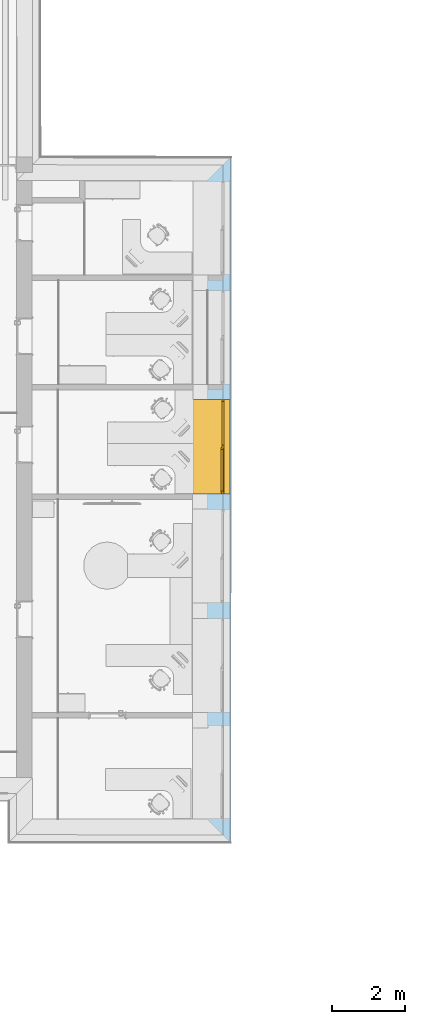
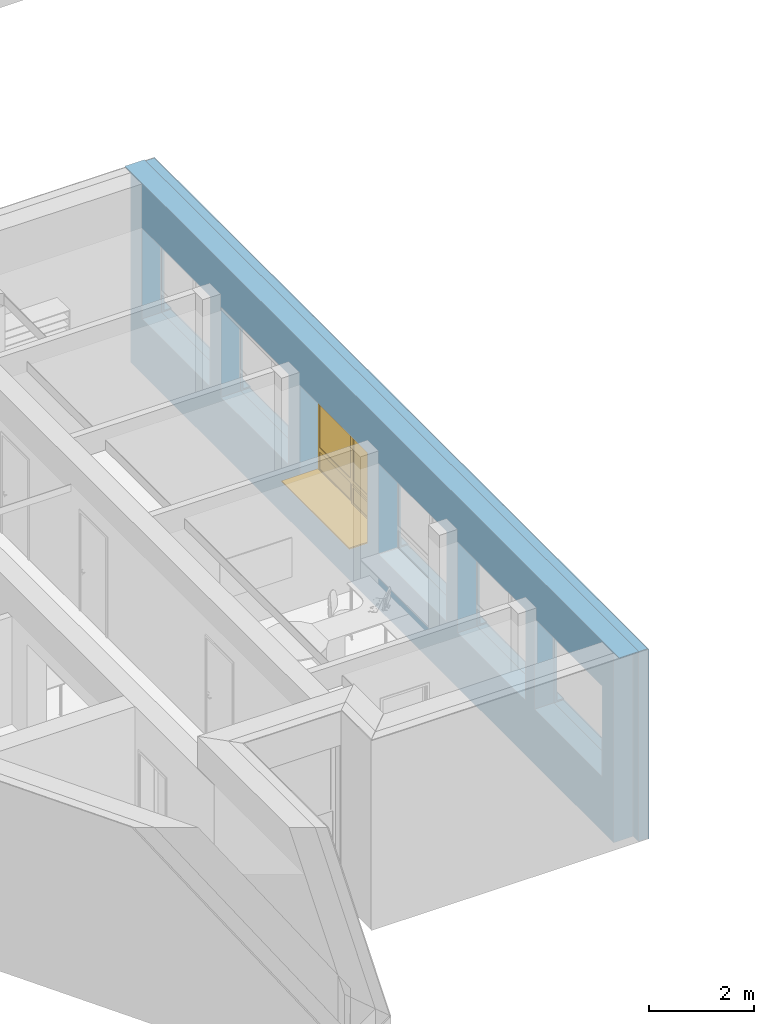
# One storey, part 79 of 194: 1 window, 6 openings, 1 element without a shape of its own, plus 3 elements that do not belong to this part.
"""IFC2X3 building model written with IfcOpenShell, lengths in millimetres."""

from ifc_helpers import new_model, entity, si_unit, converted_unit, derived_unit, money_unit, direction, frame, origin_with_axes, origin_2d_with_axis, place, context, subcontext, project, spatial, polyline, rectangle, outline, extrude, boolean, open_shell, faceted_brep, surface_model, material, type_object, element, fill, aggregate, save


model = new_model("IFC2X3")

# Units and contexts
model_context = context("Model", 3, precision=1e-05, world=origin_with_axes(), true_north=direction((0.0, 1.0)))
body_context = subcontext(model_context, "Body", "Model", "MODEL_VIEW")
ifc_project = project(units=[si_unit("LENGTHUNIT", "METRE", prefix="MILLI"), si_unit("AREAUNIT", "SQUARE_METRE"), si_unit("VOLUMEUNIT", "CUBIC_METRE"), converted_unit("PLANEANGLEUNIT", "DEGREE", entity("IfcPlaneAngleMeasure", 0.0174532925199), si_unit("PLANEANGLEUNIT", "RADIAN"), dimensions=[0, 0, 0, 0, 0, 0, 0]), si_unit("SOLIDANGLEUNIT", "STERADIAN"), money_unit("EUR"), converted_unit("TIMEUNIT", "Year", entity("IfcTimeMeasure", 31556926.0), si_unit("TIMEUNIT", "SECOND"), dimensions=[0, 0, 1, 0, 0, 0, 0]), si_unit("MASSUNIT", "GRAM", prefix="KILO"), si_unit("THERMODYNAMICTEMPERATUREUNIT", "DEGREE_CELSIUS"), si_unit("LUMINOUSINTENSITYUNIT", "LUMEN"), si_unit("ENERGYUNIT", "JOULE", prefix="MEGA"), derived_unit("THERMALCONDUCTANCEUNIT", [(si_unit("POWERUNIT", "WATT"), 1), (si_unit("LENGTHUNIT", "METRE"), -1), (si_unit("THERMODYNAMICTEMPERATUREUNIT", "KELVIN"), -1)]), derived_unit("SPECIFICHEATCAPACITYUNIT", [(si_unit("ENERGYUNIT", "JOULE"), 1), (si_unit("MASSUNIT", "GRAM", prefix="KILO"), -1), (si_unit("THERMODYNAMICTEMPERATUREUNIT", "KELVIN"), -1)]), derived_unit("MASSDENSITYUNIT", [(si_unit("MASSUNIT", "GRAM", prefix="KILO"), 1), (si_unit("VOLUMEUNIT", "CUBIC_METRE"), -1)])], contexts=[model_context])

# Site, building, storey
site_placement = place(None, origin_with_axes())
site = spatial("IfcSite", under=ifc_project, at=site_placement, Name="Site", CompositionType="ELEMENT")
building_placement = place(site_placement, origin_with_axes())
building = spatial("IfcBuilding", under=site, at=building_placement, Name="Building", CompositionType="ELEMENT")
storey_placement = place(building_placement, frame((0.0, 0.0, 3000.0), z_axis=(0.0, 0.0, 1.0), x_axis=(1.0, 0.0, 0.0)))
storey = spatial("IfcBuildingStorey", under=building, at=storey_placement, Name="2 KORRUS", CompositionType="ELEMENT", Elevation=3000.0)

# Window
window_style = type_object("IfcWindowStyle", Name="A2   2\xa0580×2\xa0100", ConstructionType="NOTDEFINED", OperationType="USERDEFINED", ParameterTakesPrecedence=False, Sizeable=False)
wall_placement = place(storey_placement, frame((45388.6906963, 4389.96789684, -420.0), z_axis=(0.0, 0.0, 1.0), x_axis=(0.000555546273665, 0.999999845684, 0.0)))
opening_3_placement = place(wall_placement, frame((10639.9002006, -1.13686837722e-10, 1270.0), z_axis=(0.0, 0.0, 1.0), x_axis=(1.0, 0.0, 0.0)))
window_placement = place(opening_3_placement, frame((-1290.0, 2.27373675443e-10, 0.0), z_axis=(0.0, 0.0, 1.0), x_axis=(1.0, 0.0, 0.0)))
window = element("IfcWindow", 1, at=window_placement, inside=storey, type_object=window_style, Name="välisaken * Double Window 22", OverallHeight=2100.0, OverallWidth=2580.0, context=body_context, shape_type="SurfaceModel", body=[
    faceted_brep([(9.09494701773e-10, -20.0000000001, 30.0), (9.09494701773e-10, -20.0000000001, 5.0), (9.09494701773e-10, -220.0, 5.0), (9.09494701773e-10, -220.0, 19.5184441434), (2580.0, -20.0, 30.0), (2580.0, -20.0, 5.0), (2580.0, -220.0, 5.0), (2580.0, -220.0, 19.5184441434)], [[[0, 1, 2, 3]], [[4, 5, 1, 0]], [[2, 1, 5, 6]], [[3, 2, 6, 7]], [[4, 0, 3, 7]], [[7, 6, 5, 4]]]),
    faceted_brep([(9.09494701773e-10, -20.0000000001, 0.0), (9.09494701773e-10, -220.0, 0.0), (9.09494701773e-10, -220.0, 5.0), (9.09494701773e-10, -20.0000000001, 5.0), (2580.0, -20.0, 0.0), (2580.0, -220.0, 0.0), (2580.0, -220.0, 5.0), (2580.0, -20.0, 5.0)], [[[0, 1, 2, 3]], [[0, 4, 5, 1]], [[1, 5, 6, 2]], [[3, 2, 6, 7]], [[4, 0, 3, 7]], [[5, 4, 7, 6]]]),
    faceted_brep([(2580.0, 30.0, 0.0), (2580.0, 430.0, 0.0), (2580.0, 430.0, 30.0), (2580.0, 30.0, 30.0), (0.0, 30.0, 0.0), (9.09494701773e-10, 430.0, 0.0), (9.09494701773e-10, 830.0, 0.0), (2580.0, 830.0, 0.0), (2580.0, 830.0, 30.0), (9.09494701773e-10, 830.0, 30.0), (9.09494701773e-10, 430.0, 30.0), (0.0, 30.0, 30.0)], [[[0, 1, 2, 3]], [[0, 4, 5, 6, 7, 1]], [[1, 7, 8, 2]], [[3, 2, 8, 9, 10, 11]], [[4, 0, 3, 11]], [[5, 4, 11, 10]], [[6, 5, 10, 9]], [[7, 6, 9, 8]]]),
    faceted_brep([(25.0000000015, 30.0, 50.0), (0.0, 30.0, 50.0), (0.0, 30.0, 2050.0), (50.0000000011, 30.0, 2050.0), (50.0000000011, 30.0, 550.0), (50.0000000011, 30.0, 475.0), (25.0000000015, 30.0, 475.0), (25.0000000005, 4.99999999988, 50.0), (50.0000000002, 5.0, 50.0), (50.0000000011, -20.0, 50.0), (9.09494701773e-10, -20.0000000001, 50.0), (9.09494701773e-10, -20.0000000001, 2050.0), (50.0000000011, -20.0, 2050.0), (50.0000000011, -20.0, 550.0), (50.0000000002, 5.0, 475.0), (50.0000000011, -20.0, 450.0), (50.0000000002, 5.0, 450.0), (25.0000000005, 4.99999999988, 475.0)], [[[0, 1, 2, 3, 4, 5, 6]], [[7, 8, 9, 10, 1, 0]], [[2, 1, 10, 11]], [[3, 2, 11, 12]], [[4, 3, 12, 13]], [[14, 5, 4, 13, 15, 16]], [[14, 17, 6, 5]], [[6, 17, 7, 0]], [[16, 8, 7, 17, 14]], [[16, 15, 9, 8]], [[13, 12, 11, 10, 9, 15]]]),
    faceted_brep([(1265.0, 30.0, 475.0), (1240.0, 30.0, 475.0), (1240.0, 30.0, 550.0), (1240.0, 30.0, 2050.0), (1340.0, 30.0, 2050.0), (1340.0, 30.0, 550.0), (1340.0, 30.0, 450.0), (1340.0, 30.0, 50.0), (1265.0, 30.0, 50.0), (1265.0, 5.0, 475.0), (1240.0, 5.0, 475.0), (1240.0, 5.0, 450.0), (1240.0, -20.0000000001, 450.0), (1240.0, -20.0000000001, 550.0), (1240.0, -20.0000000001, 2050.0), (1340.0, -20.0000000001, 2050.0), (1340.0, -20.0000000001, 550.0), (1340.0, -20.0000000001, 450.0), (1340.0, -20.0000000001, 50.0), (1265.0, 5.0, 50.0), (1240.0, -20.0000000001, 50.0), (1240.0, 5.0, 50.0)], [[[0, 1, 2, 3, 4, 5, 6, 7, 8]], [[0, 9, 10, 1]], [[10, 11, 12, 13, 2, 1]], [[3, 2, 13, 14]], [[4, 3, 14, 15]], [[5, 4, 15, 16]], [[6, 5, 16, 17]], [[7, 6, 17, 18]], [[19, 8, 7, 18, 20, 21]], [[8, 19, 9, 0]], [[21, 11, 10, 9, 19]], [[21, 20, 12, 11]], [[12, 20, 18, 17, 16, 15, 14, 13]]]),
    faceted_brep([(50.0000000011, 30.0, 475.0), (50.0000000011, 30.0, 550.0), (1240.0, 30.0, 550.0), (1240.0, 30.0, 475.0), (50.0000000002, 5.0, 475.0), (50.0000000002, 5.0, 450.0), (50.0000000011, -20.0, 450.0), (50.0000000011, -20.0, 550.0), (1240.0, -20.0000000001, 550.0), (1240.0, 5.0, 475.0), (1240.0, -20.0000000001, 450.0), (1240.0, 5.0, 450.0)], [[[0, 1, 2, 3]], [[4, 5, 6, 7, 1, 0]], [[2, 1, 7, 8]], [[9, 3, 2, 8, 10, 11]], [[9, 4, 0, 3]], [[11, 5, 4, 9]], [[11, 10, 6, 5]], [[8, 7, 6, 10]]]),
    faceted_brep([(1240.0, 5.0, 50.0), (1240.0, -20.0000000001, 50.0), (1340.0, -20.0000000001, 50.0), (1340.0, 30.0, 50.0), (1265.0, 30.0, 50.0), (1265.0, 5.0, 50.0), (50.0000000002, 5.0, 50.0), (50.0000000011, -20.0, 50.0), (9.09494701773e-10, -20.0000000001, 50.0), (9.09494701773e-10, -20.0000000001, 0.0), (2580.0, -20.0, 0.0), (2580.0, -20.0, 50.0), (2530.0, -20.0, 50.0), (2530.0, 30.0, 50.0), (25.0000000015, 30.0, 25.0), (1265.0, 30.0, 25.0), (2580.0, 30.0, 50.0), (2580.0, 30.0, 0.0), (0.0, 30.0, 0.0), (0.0, 30.0, 50.0), (25.0000000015, 30.0, 50.0), (1265.0, 5.0, 25.0), (25.0000000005, 4.99999999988, 25.0), (25.0000000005, 4.99999999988, 50.0)], [[[0, 1, 2, 3, 4, 5]], [[6, 7, 1, 0]], [[8, 9, 10, 11, 12, 2, 1, 7]], [[13, 3, 2, 12]], [[14, 15, 4, 3, 13, 16, 17, 18, 19, 20]], [[15, 21, 5, 4]], [[5, 21, 22, 23, 6, 0]], [[23, 20, 19, 8, 7, 6]], [[19, 18, 9, 8]], [[18, 17, 10, 9]], [[17, 16, 11, 10]], [[16, 13, 12, 11]], [[14, 22, 21, 15]], [[23, 22, 14, 20]]]),
    faceted_brep([(2530.0, -20.0, 50.0), (2530.0, 30.0, 50.0), (2580.0, 30.0, 50.0), (2580.0, -20.0, 50.0), (2530.0, -20.0, 450.0), (2530.0, 30.0, 450.0), (2530.0, 30.0, 550.0), (2530.0, 30.0, 2050.0), (2580.0, 30.0, 2050.0), (2580.0, -20.0, 2050.0), (2530.0, -20.0, 2050.0), (2530.0, -20.0, 550.0)], [[[0, 1, 2, 3]], [[4, 5, 1, 0]], [[1, 5, 6, 7, 8, 2]], [[3, 2, 8, 9]], [[0, 3, 9, 10, 11, 4]], [[11, 6, 5, 4]], [[10, 7, 6, 11]], [[9, 8, 7, 10]]]),
    faceted_brep([(1340.0, -20.0000000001, 550.0), (1340.0, 30.0, 550.0), (1340.0, 30.0, 450.0), (1340.0, -20.0000000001, 450.0), (2530.0, -20.0, 550.0), (2530.0, 30.0, 550.0), (2530.0, 30.0, 450.0), (2530.0, -20.0, 450.0)], [[[0, 1, 2, 3]], [[4, 5, 1, 0]], [[1, 5, 6, 2]], [[3, 2, 6, 7]], [[0, 3, 7, 4]], [[7, 6, 5, 4]]]),
    faceted_brep([(1240.0, -20.0000000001, 2050.0), (1240.0, 30.0, 2050.0), (1340.0, 30.0, 2050.0), (1340.0, -20.0000000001, 2050.0), (50.0000000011, -20.0, 2050.0), (50.0000000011, 30.0, 2050.0), (0.0, 30.0, 2050.0), (0.0, 30.0, 2100.0), (2580.0, 30.0, 2100.0), (2580.0, 30.0, 2050.0), (2530.0, 30.0, 2050.0), (2530.0, -20.0, 2050.0), (2580.0, -20.0, 2050.0), (2580.0, -20.0, 2100.0), (9.09494701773e-10, -20.0000000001, 2100.0), (9.09494701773e-10, -20.0000000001, 2050.0)], [[[0, 1, 2, 3]], [[4, 5, 1, 0]], [[1, 5, 6, 7, 8, 9, 10, 2]], [[3, 2, 10, 11]], [[0, 3, 11, 12, 13, 14, 15, 4]], [[15, 6, 5, 4]], [[14, 7, 6, 15]], [[13, 8, 7, 14]], [[12, 9, 8, 13]], [[11, 10, 9, 12]]]),
    surface_model("IfcShellBasedSurfaceModel", [(50.0000000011, -5.0, 550.0), (1240.0, -5.00000000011, 550.0), (1240.0, -5.00000000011, 2050.0), (50.0000000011, -5.0, 2050.0)], [open_shell([[[0, 1, 2, 3]]])]),
    surface_model("IfcShellBasedSurfaceModel", [(50.0000000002, 15.0, 550.0), (50.0000000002, 15.0, 2050.0), (1240.0, 15.0, 2050.0), (1240.0, 15.0, 550.0)], [open_shell([[[0, 1, 2, 3]]])]),
    surface_model("IfcShellBasedSurfaceModel", [(1340.0, -5.0, 550.0), (2530.0, -5.00000000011, 550.0), (2530.0, -5.00000000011, 2050.0), (1340.0, -5.0, 2050.0)], [open_shell([[[0, 1, 2, 3]]])]),
    surface_model("IfcShellBasedSurfaceModel", [(1340.0, 14.9999999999, 550.0), (1340.0, 14.9999999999, 2050.0), (2530.0, 15.0, 2050.0), (2530.0, 15.0, 550.0)], [open_shell([[[0, 1, 2, 3]]])]),
    faceted_brep([(75.0000000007, 4.99999999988, 425.0), (75.0000000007, 54.9999999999, 425.0), (25.0000000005, 55.0000000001, 425.0), (25.0000000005, 4.99999999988, 425.0), (75.0000000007, 4.99999999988, 75.0), (75.0000000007, 54.9999999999, 75.0), (25.0000000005, 55.0000000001, 75.0), (25.0000000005, 4.99999999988, 75.0)], [[[0, 1, 2, 3]], [[4, 5, 1, 0]], [[1, 5, 6, 2]], [[3, 2, 6, 7]], [[0, 3, 7, 4]], [[7, 6, 5, 4]]]),
    faceted_brep([(1215.0, 5.0, 75.0), (1215.0, 54.9999999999, 75.0), (1265.0, 54.9999999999, 75.0), (1265.0, 5.0, 75.0), (1215.0, 5.0, 425.0), (1215.0, 54.9999999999, 425.0), (1265.0, 54.9999999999, 425.0), (1265.0, 5.0, 425.0)], [[[0, 1, 2, 3]], [[4, 5, 1, 0]], [[1, 5, 6, 2]], [[3, 2, 6, 7]], [[0, 3, 7, 4]], [[7, 6, 5, 4]]]),
    faceted_brep([(1265.0, 5.0, 25.0), (1265.0, 54.9999999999, 25.0), (1265.0, 54.9999999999, 75.0), (1265.0, 5.0, 75.0), (25.0000000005, 4.99999999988, 25.0), (25.0000000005, 55.0000000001, 25.0), (25.0000000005, 55.0000000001, 75.0), (75.0000000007, 54.9999999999, 75.0), (1215.0, 54.9999999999, 75.0), (1215.0, 5.0, 75.0), (75.0000000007, 4.99999999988, 75.0), (25.0000000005, 4.99999999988, 75.0)], [[[0, 1, 2, 3]], [[4, 5, 1, 0]], [[1, 5, 6, 7, 8, 2]], [[3, 2, 8, 9]], [[0, 3, 9, 10, 11, 4]], [[11, 6, 5, 4]], [[10, 7, 6, 11]], [[9, 8, 7, 10]]]),
    faceted_brep([(25.0000000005, 4.99999999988, 475.0), (25.0000000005, 55.0000000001, 475.0), (25.0000000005, 55.0000000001, 425.0), (25.0000000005, 4.99999999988, 425.0), (1265.0, 5.0, 475.0), (1265.0, 54.9999999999, 475.0), (1265.0, 54.9999999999, 425.0), (1215.0, 54.9999999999, 425.0), (75.0000000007, 54.9999999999, 425.0), (75.0000000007, 4.99999999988, 425.0), (1215.0, 5.0, 425.0), (1265.0, 5.0, 425.0)], [[[0, 1, 2, 3]], [[4, 5, 1, 0]], [[1, 5, 6, 7, 8, 2]], [[3, 2, 8, 9]], [[0, 3, 9, 10, 11, 4]], [[11, 6, 5, 4]], [[10, 7, 6, 11]], [[9, 8, 7, 10]]]),
    surface_model("IfcShellBasedSurfaceModel", [(75.0000000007, 20.0, 75.0), (1215.0, 19.9999999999, 75.0), (1215.0, 19.9999999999, 425.0), (75.0000000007, 20.0, 425.0)], [open_shell([[[0, 1, 2, 3]]])]),
    surface_model("IfcShellBasedSurfaceModel", [(75.0000000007, 40.0, 75.0), (75.0000000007, 40.0, 425.0), (1215.0, 40.0, 425.0), (1215.0, 40.0, 75.0)], [open_shell([[[0, 1, 2, 3]]])]),
    surface_model("IfcShellBasedSurfaceModel", [(1340.0, -5.0, 50.0), (2530.0, -5.00000000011, 50.0), (2530.0, -5.00000000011, 450.0), (1340.0, -5.0, 450.0)], [open_shell([[[0, 1, 2, 3]]])]),
    surface_model("IfcShellBasedSurfaceModel", [(1340.0, 14.9999999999, 50.0), (1340.0, 14.9999999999, 450.0), (2530.0, 15.0, 450.0), (2530.0, 15.0, 50.0)], [open_shell([[[0, 1, 2, 3]]])]),
])

# Wall, openings
wall_type = type_object("IfcWallType", Name="VS4", PredefinedType="NOTDEFINED")
wall = element("IfcWall", 2, at=wall_placement, inside=storey, type_object=wall_type, Name="VS4")
opening_1_placement = place(wall_placement, frame((1719.99240846, 0.0, 1270.0), z_axis=(0.0, 0.0, 1.0), x_axis=(1.0, 0.0, 0.0)))
element("IfcOpeningElement", 3, at=opening_1_placement, cuts=wall, Name="välisaken * Double Window 22", context=body_context, shape_type="SweptSolid", body=[
    extrude(rectangle(XDim=2580.0, YDim=2100.0, at=origin_2d_with_axis()), frame((9.09494701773e-10, -20.0, 1050.0), z_axis=(0.0, -1.0, 0.0), x_axis=(1.0, 0.0, 0.0)), (0.0, 0.0, -1.0), 1100.0),
    extrude(rectangle(XDim=2580.0, YDim=2100.0, at=origin_2d_with_axis()), frame((9.09494701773e-10, -20.0000000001, 1050.0), z_axis=(0.0, 1.0, 0.0), x_axis=(1.0, 0.0, 0.0)), (0.0, 0.0, -1.0), 850.0),
])
opening_2_placement = place(wall_placement, frame((7639.96095485, 0.0, 1270.0), z_axis=(0.0, 0.0, 1.0), x_axis=(1.0, 0.0, 0.0)))
element("IfcOpeningElement", 4, at=opening_2_placement, cuts=wall, Name="välisaken * Double Window 22", context=body_context, shape_type="SweptSolid", body=[
    extrude(rectangle(XDim=2580.0, YDim=2100.0, at=origin_2d_with_axis()), frame((9.09494701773e-10, -19.9999999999, 1050.0), z_axis=(0.0, -1.0, 0.0), x_axis=(1.0, 0.0, 0.0)), (0.0, 0.0, -1.0), 1100.0),
    extrude(rectangle(XDim=2580.0, YDim=2100.0, at=origin_2d_with_axis()), frame((9.09494701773e-10, -20.0, 1050.0), z_axis=(0.0, 1.0, 0.0), x_axis=(1.0, 0.0, 0.0)), (0.0, 0.0, -1.0), 850.0),
])
opening_3 = element("IfcOpeningElement", 5, at=opening_3_placement, cuts=wall, Name="välisaken * Double Window 22", context=body_context, shape_type="SweptSolid", body=[
    extrude(rectangle(XDim=2580.0, YDim=2100.0, at=origin_2d_with_axis()), frame((9.09494701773e-10, -19.9999999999, 1050.0), z_axis=(0.0, -1.0, 0.0), x_axis=(1.0, 0.0, 0.0)), (0.0, 0.0, -1.0), 1100.0),
    extrude(rectangle(XDim=2580.0, YDim=2100.0, at=origin_2d_with_axis()), frame((0.0, -20.0, 1050.0), z_axis=(0.0, 1.0, 0.0), x_axis=(1.0, 0.0, 0.0)), (0.0, 0.0, -1.0), 850.0),
])

fill(opening_3, window)

# Opening
opening_4_placement = place(wall_placement, frame((13639.8047206, -1.13686837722e-10, 1270.0), z_axis=(0.0, 0.0, 1.0), x_axis=(1.0, 0.0, 0.0)))
element("IfcOpeningElement", 6, at=opening_4_placement, cuts=wall, Name="välisaken * Double Window 22", context=body_context, shape_type="SweptSolid", body=[
    extrude(rectangle(XDim=2580.0, YDim=2100.0, at=origin_2d_with_axis()), frame((9.09494701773e-10, -19.9999999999, 1050.0), z_axis=(0.0, -1.0, 0.0), x_axis=(1.0, 0.0, 0.0)), (0.0, 0.0, -1.0), 1100.0),
    extrude(rectangle(XDim=2580.0, YDim=2100.0, at=origin_2d_with_axis()), frame((1.81898940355e-09, -20.0, 1050.0), z_axis=(0.0, 1.0, 0.0), x_axis=(1.0, 0.0, 0.0)), (0.0, 0.0, -1.0), 850.0),
])

opening_5_placement = place(wall_placement, frame((16639.9800092, 0.0, 1270.0), z_axis=(0.0, 0.0, 1.0), x_axis=(1.0, 0.0, 0.0)))
element("IfcOpeningElement", 7, at=opening_5_placement, cuts=wall, Name="välisaken * Double Window 22", context=body_context, shape_type="SweptSolid", body=[
    extrude(rectangle(XDim=2580.0, YDim=2100.0, at=origin_2d_with_axis()), frame((0.0, -20.0000000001, 1050.0), z_axis=(0.0, -1.0, 0.0), x_axis=(1.0, 0.0, 0.0)), (0.0, 0.0, -1.0), 1100.0),
    extrude(rectangle(XDim=2580.0, YDim=2100.0, at=origin_2d_with_axis()), frame((0.0, -20.0000000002, 1050.0), z_axis=(0.0, 1.0, 0.0), x_axis=(1.0, 0.0, 0.0)), (0.0, 0.0, -1.0), 850.0),
])

opening_6_placement = place(wall_placement, frame((4639.9161327, 0.0, 1270.0), z_axis=(0.0, 0.0, 1.0), x_axis=(1.0, 0.0, 0.0)))
element("IfcOpeningElement", 8, at=opening_6_placement, cuts=wall, Name="välisaken * Double Window 22", context=body_context, shape_type="SweptSolid", body=[
    extrude(rectangle(XDim=2580.0, YDim=2100.0, at=origin_2d_with_axis()), frame((9.09494701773e-10, -20.0, 1050.0), z_axis=(0.0, -1.0, 0.0), x_axis=(1.0, 0.0, 0.0)), (0.0, 0.0, -1.0), 1100.0),
    extrude(rectangle(XDim=2580.0, YDim=2100.0, at=origin_2d_with_axis()), frame((9.09494701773e-10, -20.0000000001, 1050.0), z_axis=(0.0, 1.0, 0.0), x_axis=(1.0, 0.0, 0.0)), (0.0, 0.0, -1.0), 850.0),
])

# Building element part
ifc_material_1 = material(Name="Tellis - Konstuktsioon")
building_element_part_1_placement = place(wall_placement, origin_with_axes())
building_element_part_1 = element("IfcBuildingElementPart", 9, at=building_element_part_1_placement, material=ifc_material_1, Name="Tellis - Konstuktsioon", context=body_context, shape_type="CSG", body=[
    boolean("DIFFERENCE", boolean("DIFFERENCE", boolean("DIFFERENCE", boolean("DIFFERENCE", boolean("DIFFERENCE", boolean("DIFFERENCE", extrude(outline(polyline([(-220.007591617, 0.0), (18579.9522338, 0.0), (18579.9522338, 430.0), (-220.007591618, 430.0), (-220.007591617, 0.0)])), origin_with_axes(), (0.0, 0.0, 1.0), 4420.0), faceted_brep([(0.0, 0.0, 4400.0), (-220.000000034, -1.13686837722e-10, 4400.0), (-220.007591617, 0.0, 0.0), (0.0, 1.13686837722e-10, 0.0), (-0.00759158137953, 430.0, 4400.0), (-220.007591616, 430.0, 4400.0), (-220.007591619, 430.0, 0.0), (-0.00759158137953, 430.0, 0.0)], [[[0, 1, 2, 3]], [[1, 0, 4, 5]], [[1, 5, 6, 2]], [[7, 3, 2, 6]], [[0, 3, 7, 4]], [[4, 7, 6, 5]]])), faceted_brep([(18579.9522338, 430.0, 4420.0), (18579.0005259, 0.0, 4420.0), (18579.9522338, 0.0, 4420.0), (18579.0005263, -9.09494701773e-10, 4400.0), (18579.9522348, 429.999999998, 4400.0), (18358.9999871, -2.27373675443e-10, 4400.0), (18358.9999871, -1.13686837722e-10, 0.0), (18579.9522338, 0.0, 0.0), (18579.9522338, 430.0, 0.0), (18359.951695, 430.0, 4400.0), (18359.951695, 430.0, 0.0)], [[[0, 1, 2]], [[3, 1, 0, 4]], [[5, 6, 7, 2, 1, 3]], [[4, 0, 2, 7, 8]], [[5, 3, 4, 9]], [[6, 5, 9, 10]], [[6, 10, 8, 7]], [[9, 4, 8, 10]]])), faceted_brep([(0.111082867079, -200.0, 1300.0), (18196.9295608, -200.0, 1300.0), (18196.9295608, -200.0, 3400.0), (0.111082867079, -200.0, 3400.0), (0.0345998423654, -62.3282756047, 1300.0), (18196.8474617, -52.2191024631, 1300.0), (18196.8474617, -52.2191024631, 3400.0), (0.0345998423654, -62.3282756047, 3400.0)], [[[0, 1, 2, 3]], [[1, 0, 4, 5]], [[2, 1, 5, 6]], [[3, 2, 6, 7]], [[0, 3, 7, 4]], [[5, 4, 7, 6]]])), faceted_brep([(-199.996469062, -200.0, 0.0), (-199.996469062, -200.0, 4400.0), (18558.5578221, -200.0, 4400.0), (18558.5578221, -200.0, 0.0), (18579.9522338, -200.0, 0.0), (18579.9522338, -200.0, 4420.0), (-220.007591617, -200.0, 4420.0), (-220.007591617, -200.0, 0.0), (-200.000000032, 0.0, 0.0), (-200.000000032, -1.13686837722e-10, 4400.0), (18358.9999871, -2.27373675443e-10, 4400.0), (18559.0004769, 0.0, 4400.0), (18559.0004769, 0.0, 0.0), (18579.9522338, 0.0, 0.0), (18579.9522338, 0.0, 4420.0), (-220.007591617, 0.0, 4420.0), (-220.007591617, 0.0, 0.0)], [[[0, 1, 2, 3, 4, 5, 6, 7]], [[1, 0, 8, 9]], [[10, 11, 2, 1, 9]], [[3, 2, 11, 12]], [[3, 12, 13, 4]], [[5, 4, 13, 14]], [[15, 6, 5, 14]], [[15, 16, 7, 6]], [[8, 0, 7, 16]], [[9, 8, 16, 15, 14, 13, 12, 11, 10]]])), faceted_brep([(0.111082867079, -200.0, 1300.0), (0.111082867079, -200.0, 3400.0), (18196.9295608, -200.0, 3400.0), (18196.9295608, -200.0, 1300.0), (0.122193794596, -220.0, 1300.0), (0.122193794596, -220.0, 3400.0), (18196.9406717, -220.0, 3400.0), (18196.9406717, -220.0, 1300.0)], [[[0, 1, 2, 3]], [[4, 5, 1, 0]], [[5, 6, 2, 1]], [[6, 7, 3, 2]], [[7, 4, 0, 3]], [[4, 7, 6, 5]]])), faceted_brep([(-219.996115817, -220.0, 4400.0), (18558.5135566, -220.0, 4400.0), (18578.5136056, -220.0, 4400.0), (18578.5136056, -220.0, 0.0), (18579.9522338, -220.0, 0.0), (18579.9522338, -220.0, 4420.0), (-220.007591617, -220.0, 4420.0), (-220.007591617, -220.0, 0.0), (-219.996115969, -220.0, 0.0), (-219.996468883, -200.0, 4400.0), (18558.5578221, -200.0, 4400.0), (18578.5578711, -200.0, 4400.0), (18578.5578711, -200.0, 0.0), (18579.9522338, -200.0, 0.0), (18579.9522338, -200.0, 4420.0), (-220.007591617, -200.0, 4420.0), (-220.007591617, -200.0, 0.0), (-219.996469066, -200.0, 0.0)], [[[0, 1, 2, 3, 4, 5, 6, 7, 8]], [[2, 1, 0, 9, 10, 11]], [[3, 2, 11, 12]], [[3, 12, 13, 4]], [[5, 4, 13, 14]], [[15, 6, 5, 14]], [[15, 16, 7, 6]], [[17, 8, 7, 16]], [[0, 8, 17, 9]], [[9, 17, 16, 15, 14, 13, 12, 11, 10]]])),
])

ifc_material_2 = material(Name="Soojustus - Plastik Kõva")
building_element_part_2_placement = place(wall_placement, origin_with_axes())
building_element_part_2 = element("IfcBuildingElementPart", 10, at=building_element_part_2_placement, material=ifc_material_2, Name="Soojustus - Plastik Kõva", context=body_context, shape_type="CSG", body=[
    boolean("DIFFERENCE", boolean("DIFFERENCE", boolean("DIFFERENCE", boolean("DIFFERENCE", boolean("DIFFERENCE", boolean("DIFFERENCE", extrude(outline(polyline([(-220.007591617, -200.0), (18579.9522338, -200.0), (18579.9522338, 0.0), (-220.007591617, 0.0), (-220.007591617, -200.0)])), origin_with_axes(), (0.0, 0.0, 1.0), 4420.0), faceted_brep([(0.0, 0.0, 4400.0), (-220.000000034, -1.13686837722e-10, 4400.0), (-220.007591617, 0.0, 0.0), (0.0, 1.13686837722e-10, 0.0), (-0.00759158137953, 430.0, 4400.0), (-220.007591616, 430.0, 4400.0), (-220.007591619, 430.0, 0.0), (-0.00759158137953, 430.0, 0.0)], [[[0, 1, 2, 3]], [[1, 0, 4, 5]], [[1, 5, 6, 2]], [[7, 3, 2, 6]], [[0, 3, 7, 4]], [[4, 7, 6, 5]]])), faceted_brep([(18579.9522338, 430.0, 4420.0), (18579.0005259, 0.0, 4420.0), (18579.9522338, 0.0, 4420.0), (18579.0005263, -9.09494701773e-10, 4400.0), (18579.9522348, 429.999999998, 4400.0), (18358.9999871, -2.27373675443e-10, 4400.0), (18358.9999871, -1.13686837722e-10, 0.0), (18579.9522338, 0.0, 0.0), (18579.9522338, 430.0, 0.0), (18359.951695, 430.0, 4400.0), (18359.951695, 430.0, 0.0)], [[[0, 1, 2]], [[3, 1, 0, 4]], [[5, 6, 7, 2, 1, 3]], [[4, 0, 2, 7, 8]], [[5, 3, 4, 9]], [[6, 5, 9, 10]], [[6, 10, 8, 7]], [[9, 4, 8, 10]]])), faceted_brep([(0.111082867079, -200.0, 1300.0), (18196.9295608, -200.0, 1300.0), (18196.9295608, -200.0, 3400.0), (0.111082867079, -200.0, 3400.0), (0.0345998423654, -62.3282756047, 1300.0), (18196.8474617, -52.2191024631, 1300.0), (18196.8474617, -52.2191024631, 3400.0), (0.0345998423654, -62.3282756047, 3400.0)], [[[0, 1, 2, 3]], [[1, 0, 4, 5]], [[2, 1, 5, 6]], [[3, 2, 6, 7]], [[0, 3, 7, 4]], [[5, 4, 7, 6]]])), faceted_brep([(-199.996469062, -200.0, 0.0), (-199.996469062, -200.0, 4400.0), (18558.5578221, -200.0, 4400.0), (18558.5578221, -200.0, 0.0), (18579.9522338, -200.0, 0.0), (18579.9522338, -200.0, 4420.0), (-220.007591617, -200.0, 4420.0), (-220.007591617, -200.0, 0.0), (-200.000000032, 0.0, 0.0), (-200.000000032, -1.13686837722e-10, 4400.0), (18358.9999871, -2.27373675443e-10, 4400.0), (18559.0004769, 0.0, 4400.0), (18559.0004769, 0.0, 0.0), (18579.9522338, 0.0, 0.0), (18579.9522338, 0.0, 4420.0), (-220.007591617, 0.0, 4420.0), (-220.007591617, 0.0, 0.0)], [[[0, 1, 2, 3, 4, 5, 6, 7]], [[1, 0, 8, 9]], [[10, 11, 2, 1, 9]], [[3, 2, 11, 12]], [[3, 12, 13, 4]], [[5, 4, 13, 14]], [[15, 6, 5, 14]], [[15, 16, 7, 6]], [[8, 0, 7, 16]], [[9, 8, 16, 15, 14, 13, 12, 11, 10]]])), faceted_brep([(0.111082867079, -200.0, 1300.0), (0.111082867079, -200.0, 3400.0), (18196.9295608, -200.0, 3400.0), (18196.9295608, -200.0, 1300.0), (0.122193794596, -220.0, 1300.0), (0.122193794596, -220.0, 3400.0), (18196.9406717, -220.0, 3400.0), (18196.9406717, -220.0, 1300.0)], [[[0, 1, 2, 3]], [[4, 5, 1, 0]], [[5, 6, 2, 1]], [[6, 7, 3, 2]], [[7, 4, 0, 3]], [[4, 7, 6, 5]]])), faceted_brep([(-219.996115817, -220.0, 4400.0), (18558.5135566, -220.0, 4400.0), (18578.5136056, -220.0, 4400.0), (18578.5136056, -220.0, 0.0), (18579.9522338, -220.0, 0.0), (18579.9522338, -220.0, 4420.0), (-220.007591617, -220.0, 4420.0), (-220.007591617, -220.0, 0.0), (-219.996115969, -220.0, 0.0), (-219.996468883, -200.0, 4400.0), (18558.5578221, -200.0, 4400.0), (18578.5578711, -200.0, 4400.0), (18578.5578711, -200.0, 0.0), (18579.9522338, -200.0, 0.0), (18579.9522338, -200.0, 4420.0), (-220.007591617, -200.0, 4420.0), (-220.007591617, -200.0, 0.0), (-219.996469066, -200.0, 0.0)], [[[0, 1, 2, 3, 4, 5, 6, 7, 8]], [[2, 1, 0, 9, 10, 11]], [[3, 2, 11, 12]], [[3, 12, 13, 4]], [[5, 4, 13, 14]], [[15, 6, 5, 14]], [[15, 16, 7, 6]], [[17, 8, 7, 16]], [[0, 8, 17, 9]], [[9, 17, 16, 15, 14, 13, 12, 11, 10]]])),
])

ifc_material_3 = material(Name="Tellis - Viimistlus")
building_element_part_3_placement = place(wall_placement, origin_with_axes())
building_element_part_3 = element("IfcBuildingElementPart", 11, at=building_element_part_3_placement, material=ifc_material_3, Name="Tellis - Viimistlus", context=body_context, shape_type="CSG", body=[
    boolean("DIFFERENCE", boolean("DIFFERENCE", boolean("DIFFERENCE", boolean("DIFFERENCE", boolean("DIFFERENCE", boolean("DIFFERENCE", extrude(outline(polyline([(-220.007591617, -220.0), (18579.9522338, -220.0), (18579.9522338, -200.0), (-220.007591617, -200.0), (-220.007591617, -220.0)])), origin_with_axes(), (0.0, 0.0, 1.0), 4420.0), faceted_brep([(0.0, 0.0, 4400.0), (-220.000000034, -1.13686837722e-10, 4400.0), (-220.007591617, 0.0, 0.0), (0.0, 1.13686837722e-10, 0.0), (-0.00759158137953, 430.0, 4400.0), (-220.007591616, 430.0, 4400.0), (-220.007591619, 430.0, 0.0), (-0.00759158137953, 430.0, 0.0)], [[[0, 1, 2, 3]], [[1, 0, 4, 5]], [[1, 5, 6, 2]], [[7, 3, 2, 6]], [[0, 3, 7, 4]], [[4, 7, 6, 5]]])), faceted_brep([(18579.9522338, 430.0, 4420.0), (18579.0005259, 0.0, 4420.0), (18579.9522338, 0.0, 4420.0), (18579.0005263, -9.09494701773e-10, 4400.0), (18579.9522348, 429.999999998, 4400.0), (18358.9999871, -2.27373675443e-10, 4400.0), (18358.9999871, -1.13686837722e-10, 0.0), (18579.9522338, 0.0, 0.0), (18579.9522338, 430.0, 0.0), (18359.951695, 430.0, 4400.0), (18359.951695, 430.0, 0.0)], [[[0, 1, 2]], [[3, 1, 0, 4]], [[5, 6, 7, 2, 1, 3]], [[4, 0, 2, 7, 8]], [[5, 3, 4, 9]], [[6, 5, 9, 10]], [[6, 10, 8, 7]], [[9, 4, 8, 10]]])), faceted_brep([(0.111082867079, -200.0, 1300.0), (18196.9295608, -200.0, 1300.0), (18196.9295608, -200.0, 3400.0), (0.111082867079, -200.0, 3400.0), (0.0345998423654, -62.3282756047, 1300.0), (18196.8474617, -52.2191024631, 1300.0), (18196.8474617, -52.2191024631, 3400.0), (0.0345998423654, -62.3282756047, 3400.0)], [[[0, 1, 2, 3]], [[1, 0, 4, 5]], [[2, 1, 5, 6]], [[3, 2, 6, 7]], [[0, 3, 7, 4]], [[5, 4, 7, 6]]])), faceted_brep([(-199.996469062, -200.0, 0.0), (-199.996469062, -200.0, 4400.0), (18558.5578221, -200.0, 4400.0), (18558.5578221, -200.0, 0.0), (18579.9522338, -200.0, 0.0), (18579.9522338, -200.0, 4420.0), (-220.007591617, -200.0, 4420.0), (-220.007591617, -200.0, 0.0), (-200.000000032, 0.0, 0.0), (-200.000000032, -1.13686837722e-10, 4400.0), (18358.9999871, -2.27373675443e-10, 4400.0), (18559.0004769, 0.0, 4400.0), (18559.0004769, 0.0, 0.0), (18579.9522338, 0.0, 0.0), (18579.9522338, 0.0, 4420.0), (-220.007591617, 0.0, 4420.0), (-220.007591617, 0.0, 0.0)], [[[0, 1, 2, 3, 4, 5, 6, 7]], [[1, 0, 8, 9]], [[10, 11, 2, 1, 9]], [[3, 2, 11, 12]], [[3, 12, 13, 4]], [[5, 4, 13, 14]], [[15, 6, 5, 14]], [[15, 16, 7, 6]], [[8, 0, 7, 16]], [[9, 8, 16, 15, 14, 13, 12, 11, 10]]])), faceted_brep([(0.111082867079, -200.0, 1300.0), (0.111082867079, -200.0, 3400.0), (18196.9295608, -200.0, 3400.0), (18196.9295608, -200.0, 1300.0), (0.122193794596, -220.0, 1300.0), (0.122193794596, -220.0, 3400.0), (18196.9406717, -220.0, 3400.0), (18196.9406717, -220.0, 1300.0)], [[[0, 1, 2, 3]], [[4, 5, 1, 0]], [[5, 6, 2, 1]], [[6, 7, 3, 2]], [[7, 4, 0, 3]], [[4, 7, 6, 5]]])), faceted_brep([(-219.996115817, -220.0, 4400.0), (18558.5135566, -220.0, 4400.0), (18578.5136056, -220.0, 4400.0), (18578.5136056, -220.0, 0.0), (18579.9522338, -220.0, 0.0), (18579.9522338, -220.0, 4420.0), (-220.007591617, -220.0, 4420.0), (-220.007591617, -220.0, 0.0), (-219.996115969, -220.0, 0.0), (-219.996468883, -200.0, 4400.0), (18558.5578221, -200.0, 4400.0), (18578.5578711, -200.0, 4400.0), (18578.5578711, -200.0, 0.0), (18579.9522338, -200.0, 0.0), (18579.9522338, -200.0, 4420.0), (-220.007591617, -200.0, 4420.0), (-220.007591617, -200.0, 0.0), (-219.996469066, -200.0, 0.0)], [[[0, 1, 2, 3, 4, 5, 6, 7, 8]], [[2, 1, 0, 9, 10, 11]], [[3, 2, 11, 12]], [[3, 12, 13, 4]], [[5, 4, 13, 14]], [[15, 6, 5, 14]], [[15, 16, 7, 6]], [[17, 8, 7, 16]], [[0, 8, 17, 9]], [[9, 17, 16, 15, 14, 13, 12, 11, 10]]])),
])

aggregate(wall, [building_element_part_1, building_element_part_2, building_element_part_3])

save(model, "model.ifc")
